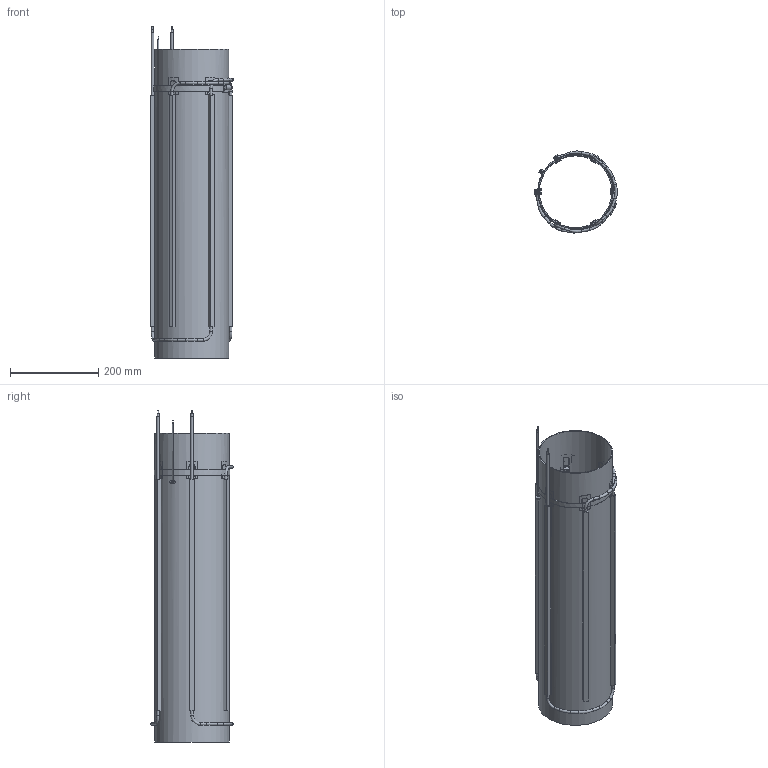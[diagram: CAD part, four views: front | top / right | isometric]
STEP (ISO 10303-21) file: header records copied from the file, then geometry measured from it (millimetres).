
FILE_DESCRIPTION(/* description */ (''),/* implementation_level */ '2;1');
FILE_NAME(/* name */ 'CONVEYOSTAT168.3_3D',/* time_stamp */ '2015-03-05T14:57:12+01:00',/* author */ (''),/* organization */ (''),/* preprocessor_version */ 'ST-DEVELOPER v15.7',/* originating_system */ 'HiCAD 2014 1902.2 Build 487',/* authorisation */ '');
FILE_SCHEMA (('AUTOMOTIVE_DESIGN { 1 0 10303 214 1 1 1 1 }'));
Products named in the file (2): Root; O.D.168,3_Assembly
Assembly tree (1 placements, depth 2):
  Root
    O.D.168,3_Assembly
Bounding box: 188.51 x 186.32 x 753 mm (x, y, z)
Volume: 1120029.9 mm3; surface area: 1034009.5 mm2
Topology: 3 solids, 3 shells, 685 faces, 2077 edges, 1360 vertices
Faces by surface type: plane 439, cylinder 190, cone 33, torus 23
Full cylindrical faces by diameter (mm): 1 x2, 1.42 x24, 2.4 x1, 2.5 x2, 3.141 x1, 4 x1, 4.019 x2, 4.6 x6, 4.8 x6, 5.3 x2, 6 x26, 164.3 x1, 168.3 x1
Entity records: 70197 total; most frequent: CARTESIAN_POINT 37987, PRESENTATION_STYLE_ASSIGNMENT 3687, DRAUGHTING_PRE_DEFINED_CURVE_FONT 3684, CURVE_STYLE 3684, OVER_RIDING_STYLED_ITEM 3684, ORIENTED_EDGE 3684, DIRECTION 3488, EDGE_CURVE 1842
